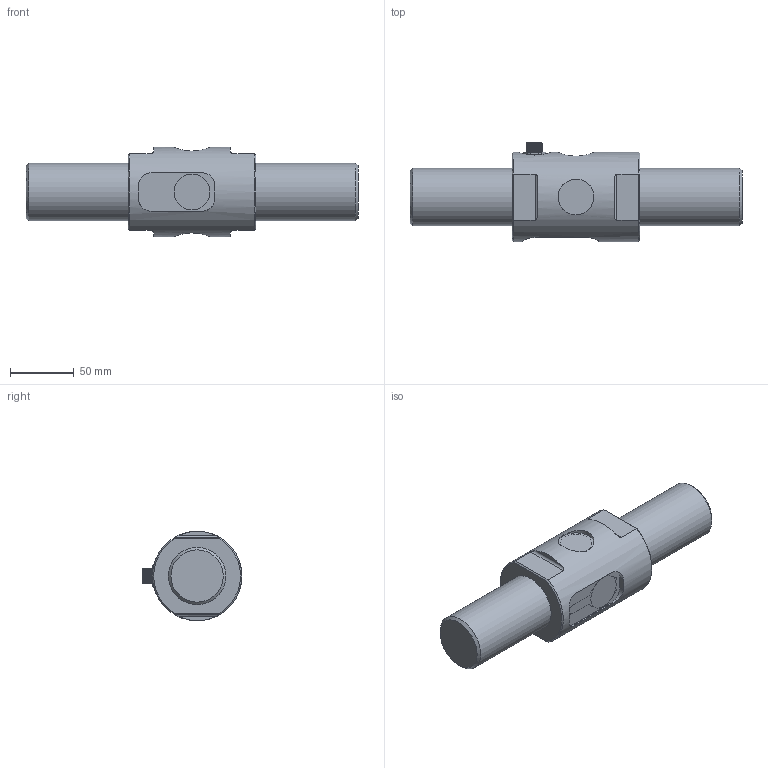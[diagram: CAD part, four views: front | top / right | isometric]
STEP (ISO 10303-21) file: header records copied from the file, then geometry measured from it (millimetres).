
FILE_DESCRIPTION(/* description */ ('Alibre Inc.'),/* implementation_level */ '2;1');
FILE_NAME(/* name */ 'export0',/* time_stamp */ '2015-02-10T14:07:58+01:00',/* author */ (''),/* organization */ (''),/* preprocessor_version */ 'ST-DEVELOPER v14',/* originating_system */ 'Alibre',/* authorisation */ '');
FILE_SCHEMA (('CONFIG_CONTROL_DESIGN'));
Length unit declared in the file: centimetre
Products named in the file (9): ID_1; ID_2; ID_3; ID_4; ID_5
Bounding box: 260 x 78 x 70 mm (x, y, z)
Volume: 614140 mm3; surface area: 64990.7 mm2
Topology: 12 solids, 12 shells, 191 faces, 408 edges, 255 vertices
Faces by surface type: plane 88, cylinder 66, bspline 23, cone 13, torus 1
Full cylindrical faces by diameter (mm): 0.5 x8, 6 x1, 8 x2, 10 x3, 11.5 x1, 13 x1, 14.376 x1, 25 x4, 28 x7, 45 x2, 70 x1
Entity records: 15867 total; most frequent: CARTESIAN_POINT 11532, ORIENTED_EDGE 706, DIRECTION 563, EDGE_CURVE 348, AXIS2_PLACEMENT_3D 257, FACE_BOUND 248, EDGE_LOOP 247, VERTEX_POINT 237
